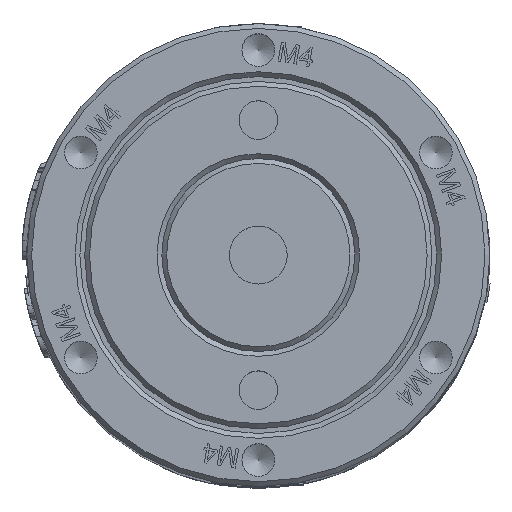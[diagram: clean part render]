
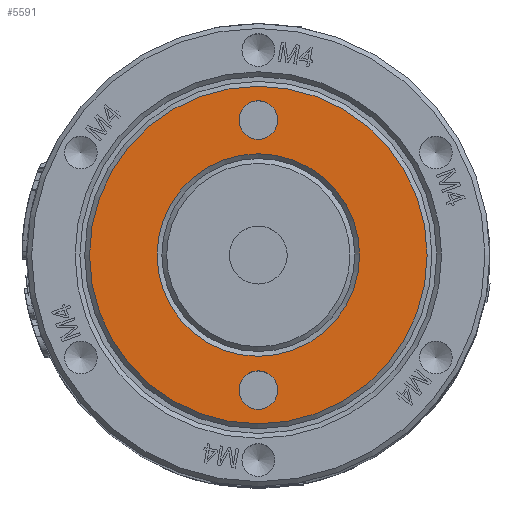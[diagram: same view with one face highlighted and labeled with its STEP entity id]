
A CAD part, top view. The second image highlights one B-rep face of the part: STEP entity #5591.
In plain terms, the highlighted planar face has unit normal (0, 0, 1).
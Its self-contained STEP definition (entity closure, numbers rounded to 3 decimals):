
#689=FACE_BOUND('',#13087,.T.);
#690=FACE_BOUND('',#13088,.T.);
#691=FACE_BOUND('',#13089,.T.);
#692=FACE_BOUND('',#13090,.T.);
#1037=CIRCLE('',#39756,2.);
#1038=CIRCLE('',#39758,2.);
#1039=CIRCLE('',#39760,10.5);
#1040=CIRCLE('',#39761,17.5);
#2132=PLANE('',#39762);
#5591=ADVANCED_FACE('',(#689,#690,#691,#692),#2132,.T.);
#13087=EDGE_LOOP('',(#21986));
#13088=EDGE_LOOP('',(#21987));
#13089=EDGE_LOOP('',(#21988));
#13090=EDGE_LOOP('',(#21989));
#21986=ORIENTED_EDGE('',*,*,#33426,.T.);
#21987=ORIENTED_EDGE('',*,*,#33425,.T.);
#21988=ORIENTED_EDGE('',*,*,#33427,.T.);
#21989=ORIENTED_EDGE('',*,*,#33428,.T.);
#28020=VERTEX_POINT('',#72322);
#28021=VERTEX_POINT('',#72325);
#28022=VERTEX_POINT('',#72328);
#28023=VERTEX_POINT('',#72330);
#33425=EDGE_CURVE('',#28020,#28020,#1037,.T.);
#33426=EDGE_CURVE('',#28021,#28021,#1038,.T.);
#33427=EDGE_CURVE('',#28022,#28022,#1039,.T.);
#33428=EDGE_CURVE('',#28023,#28023,#1040,.T.);
#39756=AXIS2_PLACEMENT_3D('',#72321,#45022,#45023);
#39758=AXIS2_PLACEMENT_3D('',#72324,#45026,#45027);
#39760=AXIS2_PLACEMENT_3D('',#72327,#45030,#45031);
#39761=AXIS2_PLACEMENT_3D('',#72329,#45032,#45033);
#39762=AXIS2_PLACEMENT_3D('',#72331,#45034,#45035);
#45022=DIRECTION('',(0.,0.,-1.));
#45023=DIRECTION('',(-1.,0.,0.));
#45026=DIRECTION('',(0.,0.,-1.));
#45027=DIRECTION('',(1.,0.,0.));
#45030=DIRECTION('',(0.,0.,-1.));
#45031=DIRECTION('',(1.,0.,0.));
#45032=DIRECTION('',(0.,0.,1.));
#45033=DIRECTION('',(1.,0.,0.));
#45034=DIRECTION('',(0.,0.,1.));
#45035=DIRECTION('',(1.,0.,0.));
#72321=CARTESIAN_POINT('',(0.,-14.,125.5));
#72322=CARTESIAN_POINT('',(-2.,-14.,125.5));
#72324=CARTESIAN_POINT('',(0.,14.,125.5));
#72325=CARTESIAN_POINT('',(2.,14.,125.5));
#72327=CARTESIAN_POINT('',(0.,0.,125.5));
#72328=CARTESIAN_POINT('',(10.5,0.,125.5));
#72329=CARTESIAN_POINT('',(0.,0.,125.5));
#72330=CARTESIAN_POINT('',(17.5,0.,125.5));
#72331=CARTESIAN_POINT('',(0.,0.,125.5));
